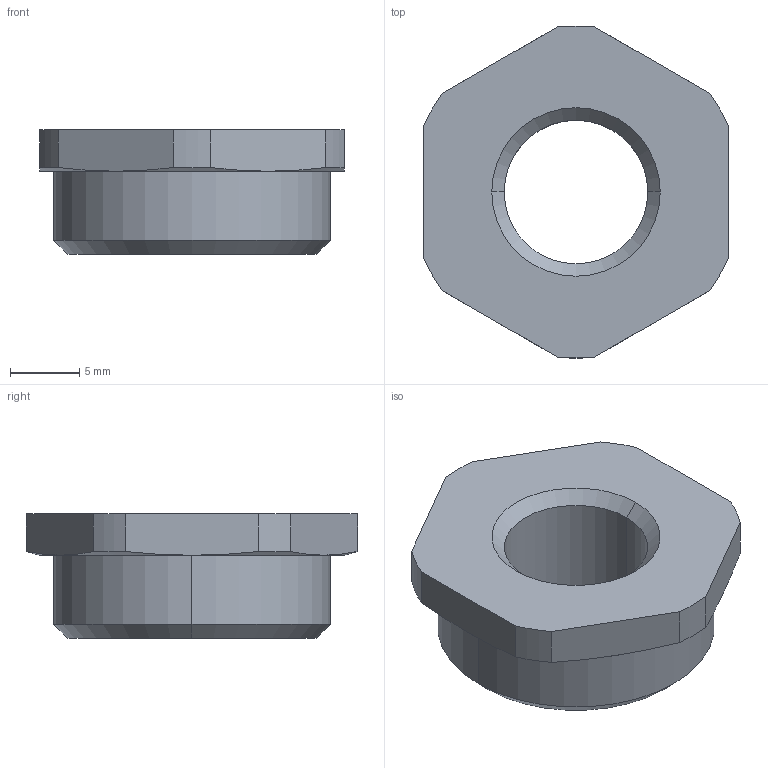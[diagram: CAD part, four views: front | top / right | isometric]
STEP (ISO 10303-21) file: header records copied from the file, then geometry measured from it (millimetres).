
FILE_DESCRIPTION (( 'STEP AP203' ), '1' );
FILE_NAME ('M20M12-6-OM.STEP', '2005-10-05T12:52:42', ( ' ' ), ( '' ), 'SwSTEP 2.0', 'SolidWorks 2005143', '' );
FILE_SCHEMA (( 'CONFIG_CONTROL_DESIGN' ));
Length unit declared in the file: millimetre
Products named in the file (1): M20M12-6-OM
Bounding box: 22 x 23.98 x 9 mm (x, y, z)
Volume: 2302.7 mm3; surface area: 1474.3 mm2
Topology: 1 solids, 1 shells, 68 faces, 174 edges, 112 vertices
Faces by surface type: plane 46, cone 12, cylinder 10
Entity records: 2127 total; most frequent: CARTESIAN_POINT 391, ORIENTED_EDGE 348, DIRECTION 332, EDGE_CURVE 174, LINE 130, VECTOR 130, VERTEX_POINT 112, AXIS2_PLACEMENT_3D 101
